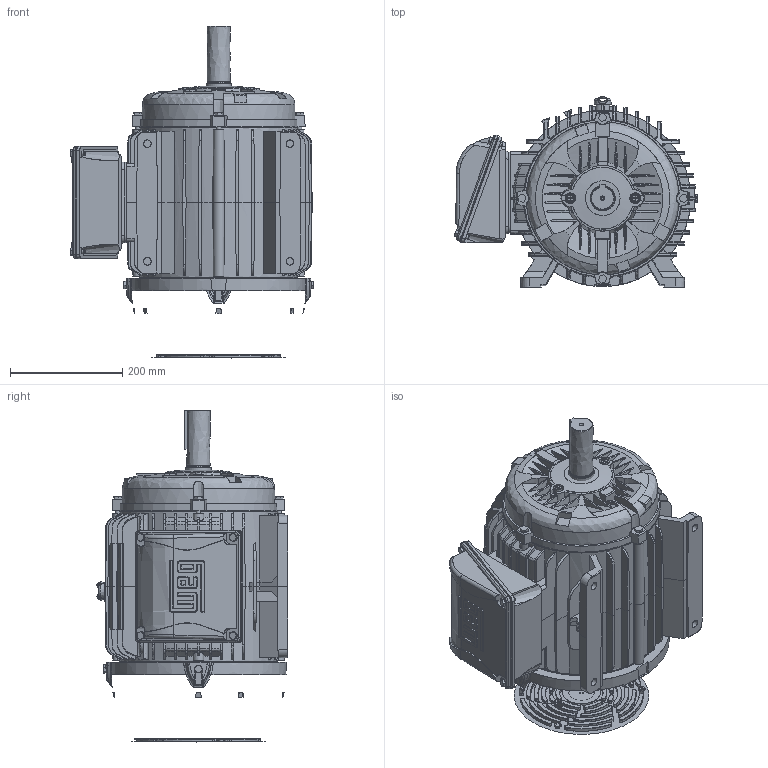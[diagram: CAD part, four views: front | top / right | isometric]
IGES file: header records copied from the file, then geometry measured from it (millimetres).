
Start section: SolidWorks IGES file using analytic representation for surfaces
Global section: file name: C:\Users\ianr\Desktop\ENC Different dimensions in 2D and 3D drawing\Alt 1\W22_GENERAL_PURPOSE\10_FRAME_254T\STANDARD\IGS\254T_LEFT.IGS; native system: SolidWorks 2016; preprocessor: SolidWorks 2016; author: ianr; date: 170911.163615; units: millimetre
Bounding box: 434.2 x 340.5 x 591.6 mm (x, y, z)
Surface area: 1431635.5 mm2 (no closed solid volume)
Topology: 0 solids, 0 shells, 2199 faces, 19454 edges, 19353 vertices
Faces by surface type: revolution 1109, bspline 1090
